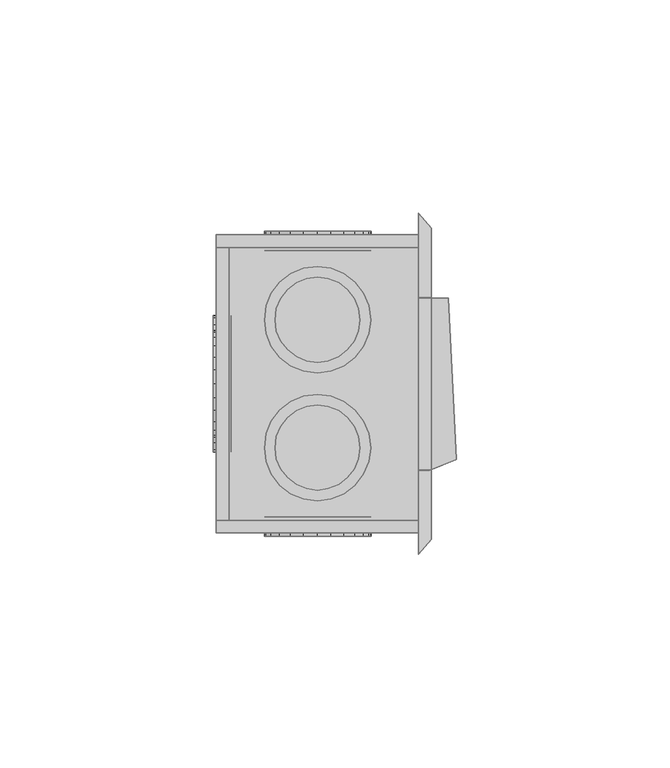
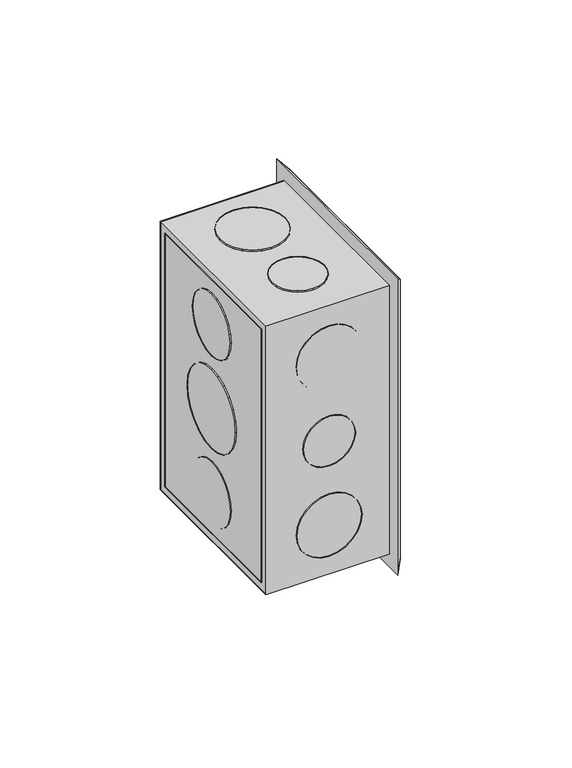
"""IFC4 building model written with IfcOpenShell, lengths in millimetres: proxy geometry,  209430 :  209430."""

from ifc_helpers import new_model, si_unit, origin, place, context, project, spatial, triangles, source, transform, mapped, element, save


def generic_models_590e91da(model_context):
    return source(origin(), model_context, "Body", "Tessellation", [
        triangles([(30653.4010437, 18688.7999542, 1254.3000378), (30653.4010437, 18685.8001373, 1148.7000154), (30653.4010437, 18688.7999542, 1145.6999805), (30653.4010437, 18685.8001373, 1251.2999302), (30653.4010437, 18618.7995758, 1254.3000378), (30653.4010437, 18621.8005554, 1251.2999302), (30653.4010437, 18618.7995758, 1145.6999805), (30653.4010437, 18621.8005554, 1148.7000154), (30605.899292, 18685.8001373, 1251.2999302), (30605.899292, 18685.8001373, 1148.7000154), (30605.899292, 18618.7995758, 1254.3000378), (30605.899292, 18618.7995758, 1145.6999805), (30605.899292, 18621.8005554, 1251.2999302), (30605.899292, 18688.7999542, 1145.6999805), (30605.899292, 18621.8005554, 1148.7000154), (30605.899292, 18688.7999542, 1254.3000378), (30608.8991089, 18685.8001373, 1251.2999302), (30608.8991089, 18621.8005554, 1148.7000154), (30608.8991089, 18685.8001373, 1148.7000154), (30608.8991089, 18621.8005554, 1251.2999302), (30609.3990784, 18667.7000793, 1191.9999887), (30609.3990784, 18661.8004395, 1186.0999855), (30609.3990784, 18665.100238, 1188.6999722), (30609.3990784, 18669.2999817, 1195.8999687), (30609.3990784, 18657.9995087, 1184.5000105), (30609.3990784, 18669.7999512, 1200.0000092), (30609.3990784, 18653.799765, 1183.9999683), (30609.3990784, 18669.2999817, 1204.0999769), (30609.3990784, 18649.7000153, 1184.5000105), (30609.3990784, 18667.7000793, 1208.0000296), (30609.3990784, 18645.8002533, 1186.0999855), (30609.3990784, 18665.100238, 1211.2999735), (30609.3990784, 18642.5004547, 1188.6999722), (30609.3990784, 18661.8004395, 1213.9000328), (30609.3990784, 18639.9994446, 1191.9999887), (30609.3990784, 18657.9995087, 1215.5000078), (30609.3990784, 18638.3995422, 1195.8999687), (30609.3990784, 18653.799765, 1215.9999773), (30609.3990784, 18637.7995789, 1200.0000092), (30609.3990784, 18649.7000153, 1215.5000078), (30609.3990784, 18638.3995422, 1204.0999769), (30609.3990784, 18645.8002533, 1213.9000328), (30609.3990784, 18639.9994446, 1208.0000296), (30609.3990784, 18642.5004547, 1211.2999735), (30605.1993347, 18649.7000153, 1184.5000105), (30605.1993347, 18653.799765, 1183.9999683), (30605.1993347, 18657.9995087, 1184.5000105), (30605.1993347, 18661.8004395, 1186.0999855), (30605.1993347, 18665.100238, 1188.6999722), (30605.1993347, 18667.7000793, 1191.9999887), (30605.1993347, 18669.2999817, 1195.8999687), (30605.1993347, 18669.7999512, 1200.0000092), (30605.1993347, 18669.2999817, 1204.0999769), (30605.1993347, 18667.7000793, 1208.0000296), (30605.1993347, 18665.100238, 1211.2999735), (30605.1993347, 18661.8004395, 1213.9000328), (30605.1993347, 18657.9995087, 1215.5000078), (30605.1993347, 18653.799765, 1215.9999773), (30605.1993347, 18649.7000153, 1215.5000078), (30605.1993347, 18645.8002533, 1213.9000328), (30605.1993347, 18642.5004547, 1211.2999735), (30605.1993347, 18639.9994446, 1208.0000296), (30605.1993347, 18638.3995422, 1204.0999769), (30605.1993347, 18637.7995789, 1200.0000092), (30605.1993347, 18638.3995422, 1195.8999687), (30605.1993347, 18639.9994446, 1191.9999887), (30605.1993347, 18642.5004547, 1188.6999722), (30605.1993347, 18645.8002533, 1186.0999855), (30609.3990784, 18664.7002625, 1227.8000565), (30609.3990784, 18660.1005432, 1223.2000465), (30609.3990784, 18662.7003845, 1225.2000698), (30609.3990784, 18665.9001892, 1230.8000187), (30609.3990784, 18657.0995636, 1221.8999805), (30609.3990784, 18666.3001648, 1233.9999687), (30609.3990784, 18653.799765, 1221.500005), (30609.3990784, 18665.9001892, 1237.2000641), (30609.3990784, 18650.5999603, 1221.8999805), (30609.3990784, 18664.7002625, 1240.3000202), (30609.3990784, 18647.6001434, 1223.2000465), (30609.3990784, 18662.7003845, 1242.800013), (30609.3990784, 18645.0003021, 1225.2000698), (30609.3990784, 18643.0004242, 1227.8000565), (30609.3990784, 18660.1005432, 1244.8000362), (30609.3990784, 18657.0995636, 1246.0999569), (30609.3990784, 18641.8004974, 1230.8000187), (30609.3990784, 18653.799765, 1246.4999325), (30609.3990784, 18641.300528, 1233.9999687), (30609.3990784, 18650.5999603, 1246.0999569), (30609.3990784, 18641.8004974, 1237.2000641), (30609.3990784, 18643.0004242, 1240.3000202), (30609.3990784, 18647.6001434, 1244.8000362), (30609.3990784, 18645.0003021, 1242.800013), (30605.1993347, 18641.8004974, 1230.8000187), (30605.1993347, 18643.0004242, 1227.8000565), (30605.1993347, 18645.0003021, 1225.2000698), (30605.1993347, 18647.6001434, 1223.2000465), (30605.1993347, 18650.5999603, 1221.8999805), (30605.1993347, 18653.799765, 1221.500005), (30605.1993347, 18657.0995636, 1221.8999805), (30605.1993347, 18660.1005432, 1223.2000465), (30605.1993347, 18662.7003845, 1225.2000698), (30605.1993347, 18664.7002625, 1227.8000565), (30605.1993347, 18665.9001892, 1230.8000187), (30605.1993347, 18666.3001648, 1233.9999687), (30605.1993347, 18665.9001892, 1237.2000641), (30605.1993347, 18664.7002625, 1240.3000202), (30605.1993347, 18662.7003845, 1242.800013), (30605.1993347, 18660.1005432, 1244.8000362), (30605.1993347, 18657.0995636, 1246.0999569), (30605.1993347, 18653.799765, 1246.4999325), (30605.1993347, 18650.5999603, 1246.0999569), (30605.1993347, 18647.6001434, 1244.8000362), (30605.1993347, 18645.0003021, 1242.800013), (30605.1993347, 18643.0004242, 1240.3000202), (30605.1993347, 18641.8004974, 1237.2000641), (30605.1993347, 18641.300528, 1233.9999687), (30605.1993347, 18660.1005432, 1155.1999821), (30605.1993347, 18664.7002625, 1159.6999981), (30605.1993347, 18662.7003845, 1157.2000053), (30605.1993347, 18657.0995636, 1153.8999887), (30605.1993347, 18665.9001892, 1162.8000269), (30605.1993347, 18653.799765, 1153.5000132), (30605.1993347, 18666.3001648, 1165.9999769), (30605.1993347, 18650.5999603, 1153.8999887), (30605.1993347, 18665.9001892, 1169.1999996), (30605.1993347, 18647.6001434, 1155.1999821), (30605.1993347, 18664.7002625, 1172.2000345), (30605.1993347, 18645.0003021, 1157.2000053), (30605.1993347, 18662.7003845, 1174.8000212), (30605.1993347, 18643.0004242, 1159.6999981), (30605.1993347, 18660.1005432, 1176.7999718), (30605.1993347, 18641.8004974, 1162.8000269), (30605.1993347, 18657.0995636, 1178.0999651), (30605.1993347, 18653.799765, 1178.5000134), (30605.1993347, 18641.300528, 1165.9999769), (30605.1993347, 18641.8004974, 1169.1999996), (30605.1993347, 18650.5999603, 1178.0999651), (30605.1993347, 18643.0004242, 1172.2000345), (30605.1993347, 18647.6001434, 1176.7999718), (30605.1993347, 18645.0003021, 1174.8000212), (30609.3990784, 18657.0995636, 1178.0999651), (30609.3990784, 18653.799765, 1178.5000134), (30609.3990784, 18660.1005432, 1176.7999718), (30609.3990784, 18662.7003845, 1174.8000212), (30609.3990784, 18664.7002625, 1172.2000345), (30609.3990784, 18665.9001892, 1169.1999996), (30609.3990784, 18666.3001648, 1165.9999769), (30609.3990784, 18665.9001892, 1162.8000269), (30609.3990784, 18664.7002625, 1159.6999981), (30609.3990784, 18662.7003845, 1157.2000053), (30609.3990784, 18660.1005432, 1155.1999821), (30609.3990784, 18657.0995636, 1153.8999887), (30609.3990784, 18653.799765, 1153.5000132), (30609.3990784, 18650.5999603, 1153.8999887), (30609.3990784, 18647.6001434, 1155.1999821), (30609.3990784, 18645.0003021, 1157.2000053), (30609.3990784, 18643.0004242, 1159.6999981), (30609.3990784, 18641.8004974, 1162.8000269), (30609.3990784, 18641.300528, 1165.9999769), (30609.3990784, 18641.8004974, 1169.1999996), (30609.3990784, 18643.0004242, 1172.2000345), (30609.3990784, 18645.0003021, 1174.8000212), (30609.3990784, 18647.6001434, 1176.7999718), (30609.3990784, 18650.5999603, 1178.0999651), (30624.70047, 18685.0001862, 1191.3000315), (30621.0006958, 18685.0001862, 1195.0000237), (30622.6005981, 18685.0001862, 1192.9000065), (30620.0007568, 18685.0001862, 1197.4000225), (30627.1003235, 18685.0001862, 1190.3000198), (30619.7007751, 18685.0001862, 1200.0000092), (30629.7001648, 18685.0001862, 1189.9999655), (30632.2000122, 18685.0001862, 1190.3000198), (30620.0007568, 18685.0001862, 1202.5999958), (30621.0006958, 18685.0001862, 1204.9999947), (30634.6998596, 18685.0001862, 1191.3000315), (30622.6005981, 18685.0001862, 1207.1000118), (30636.6997375, 18685.0001862, 1192.9000065), (30638.2996399, 18685.0001862, 1195.0000237), (30624.70047, 18685.0001862, 1208.6999868), (30639.2995789, 18685.0001862, 1197.4000225), (30627.1003235, 18685.0001862, 1209.6999985), (30639.6995544, 18685.0001862, 1200.0000092), (30629.7001648, 18685.0001862, 1209.9999802), (30639.2995789, 18685.0001862, 1202.5999958), (30632.2000122, 18685.0001862, 1209.6999985), (30634.6998596, 18685.0001862, 1208.6999868), (30638.2996399, 18685.0001862, 1204.9999947), (30636.6997375, 18685.0001862, 1207.1000118), (30629.7001648, 18689.5999054, 1189.9999655), (30627.1003235, 18689.5999054, 1190.3000198), (30632.2000122, 18689.5999054, 1190.3000198), (30634.6998596, 18689.5999054, 1191.3000315), (30636.6997375, 18689.5999054, 1192.9000065), (30638.2996399, 18689.5999054, 1195.0000237), (30639.2995789, 18689.5999054, 1197.4000225), (30639.6995544, 18689.5999054, 1200.0000092), (30639.2995789, 18689.5999054, 1202.5999958), (30638.2996399, 18689.5999054, 1204.9999947), (30636.6997375, 18689.5999054, 1207.1000118), (30634.6998596, 18689.5999054, 1208.6999868), (30632.2000122, 18689.5999054, 1209.6999985), (30629.7001648, 18689.5999054, 1209.9999802), (30627.1003235, 18689.5999054, 1209.6999985), (30624.70047, 18689.5999054, 1208.6999868), (30622.6005981, 18689.5999054, 1207.1000118), (30621.0006958, 18689.5999054, 1204.9999947), (30620.0007568, 18689.5999054, 1202.5999958), (30619.7007751, 18689.5999054, 1200.0000092), (30620.0007568, 18689.5999054, 1197.4000225), (30621.0006958, 18689.5999054, 1195.0000237), (30622.6005981, 18689.5999054, 1192.9000065), (30624.70047, 18689.5999054, 1191.3000315), (30623.4005493, 18685.0001862, 1223.2000465), (30618.8008301, 18685.0001862, 1227.8000565), (30620.800708, 18685.0001862, 1225.2000698), (30626.4003662, 18685.0001862, 1221.8999805), (30617.6009033, 18685.0001862, 1230.8000187), (30617.2009277, 18685.0001862, 1233.9999687), (30629.7001648, 18685.0001862, 1221.500005), (30632.8999695, 18685.0001862, 1221.8999805), (30617.6009033, 18685.0001862, 1237.2000641), (30618.8008301, 18685.0001862, 1240.3000202), (30635.8997864, 18685.0001862, 1223.2000465), (30638.4996277, 18685.0001862, 1225.2000698), (30620.800708, 18685.0001862, 1242.800013), (30640.4995056, 18685.0001862, 1227.8000565), (30623.4005493, 18685.0001862, 1244.8000362), (30641.6994324, 18685.0001862, 1230.8000187), (30626.4003662, 18685.0001862, 1246.0999569), (30642.1994019, 18685.0001862, 1233.9999687), (30629.7001648, 18685.0001862, 1246.4999325), (30641.6994324, 18685.0001862, 1237.2000641), (30632.8999695, 18685.0001862, 1246.0999569), (30640.4995056, 18685.0001862, 1240.3000202), (30635.8997864, 18685.0001862, 1244.8000362), (30638.4996277, 18685.0001862, 1242.800013), (30629.7001648, 18689.5999054, 1221.500005), (30626.4003662, 18689.5999054, 1221.8999805), (30632.8999695, 18689.5999054, 1221.8999805), (30635.8997864, 18689.5999054, 1223.2000465), (30638.4996277, 18689.5999054, 1225.2000698), (30640.4995056, 18689.5999054, 1227.8000565), (30641.6994324, 18689.5999054, 1230.8000187), (30642.1994019, 18689.5999054, 1233.9999687), (30641.6994324, 18689.5999054, 1237.2000641), (30640.4995056, 18689.5999054, 1240.3000202), (30638.4996277, 18689.5999054, 1242.800013), (30635.8997864, 18689.5999054, 1244.8000362), (30632.8999695, 18689.5999054, 1246.0999569), (30629.7001648, 18689.5999054, 1246.4999325), (30626.4003662, 18689.5999054, 1246.0999569), (30623.4005493, 18689.5999054, 1244.8000362), (30620.800708, 18689.5999054, 1242.800013), (30618.8008301, 18689.5999054, 1240.3000202), (30617.6009033, 18689.5999054, 1237.2000641), (30617.2009277, 18689.5999054, 1233.9999687), (30617.6009033, 18689.5999054, 1230.8000187), (30618.8008301, 18689.5999054, 1227.8000565), (30620.800708, 18689.5999054, 1225.2000698), (30623.4005493, 18689.5999054, 1223.2000465), (30618.8008301, 18689.5999054, 1159.6999981), (30623.4005493, 18689.5999054, 1155.1999821), (30620.800708, 18689.5999054, 1157.2000053), (30617.6009033, 18689.5999054, 1162.8000269), (30626.4003662, 18689.5999054, 1153.8999887), (30617.2009277, 18689.5999054, 1165.9999769), (30629.7001648, 18689.5999054, 1153.5000132), (30617.6009033, 18689.5999054, 1169.1999996), (30632.8999695, 18689.5999054, 1153.8999887), (30618.8008301, 18689.5999054, 1172.2000345), (30635.8997864, 18689.5999054, 1155.1999821), (30620.800708, 18689.5999054, 1174.8000212), (30638.4996277, 18689.5999054, 1157.2000053), (30623.4005493, 18689.5999054, 1176.7999718), (30640.4995056, 18689.5999054, 1159.6999981), (30626.4003662, 18689.5999054, 1178.0999651), (30641.6994324, 18689.5999054, 1162.8000269), (30629.7001648, 18689.5999054, 1178.5000134), (30642.1994019, 18689.5999054, 1165.9999769), (30632.8999695, 18689.5999054, 1178.0999651), (30641.6994324, 18689.5999054, 1169.1999996), (30635.8997864, 18689.5999054, 1176.7999718), (30640.4995056, 18689.5999054, 1172.2000345), (30638.4996277, 18689.5999054, 1174.8000212), (30626.4003662, 18685.0001862, 1178.0999651), (30629.7001648, 18685.0001862, 1178.5000134), (30632.8999695, 18685.0001862, 1178.0999651), (30635.8997864, 18685.0001862, 1176.7999718), (30638.4996277, 18685.0001862, 1174.8000212), (30640.4995056, 18685.0001862, 1172.2000345), (30641.6994324, 18685.0001862, 1169.1999996), (30642.1994019, 18685.0001862, 1165.9999769), (30641.6994324, 18685.0001862, 1162.8000269), (30640.4995056, 18685.0001862, 1159.6999981), (30638.4996277, 18685.0001862, 1157.2000053), (30635.8997864, 18685.0001862, 1155.1999821), (30632.8999695, 18685.0001862, 1153.8999887), (30629.7001648, 18685.0001862, 1153.5000132), (30626.4003662, 18685.0001862, 1153.8999887), (30623.4005493, 18685.0001862, 1155.1999821), (30620.800708, 18685.0001862, 1157.2000053), (30618.8008301, 18685.0001862, 1159.6999981), (30617.6009033, 18685.0001862, 1162.8000269), (30617.2009277, 18685.0001862, 1165.9999769), (30617.6009033, 18685.0001862, 1169.1999996), (30618.8008301, 18685.0001862, 1172.2000345), (30620.800708, 18685.0001862, 1174.8000212), (30623.4005493, 18685.0001862, 1176.7999718), (30621.0006958, 18622.6005066, 1195.0000237), (30624.70047, 18622.6005066, 1191.3000315), (30622.6005981, 18622.6005066, 1192.9000065), (30620.0007568, 18622.6005066, 1197.4000225), (30627.1003235, 18622.6005066, 1190.3000198), (30619.7007751, 18622.6005066, 1200.0000092), (30629.7001648, 18622.6005066, 1189.9999655), (30620.0007568, 18622.6005066, 1202.5999958), (30632.2000122, 18622.6005066, 1190.3000198), (30621.0006958, 18622.6005066, 1204.9999947), (30634.6998596, 18622.6005066, 1191.3000315), (30622.6005981, 18622.6005066, 1207.1000118), (30636.6997375, 18622.6005066, 1192.9000065), (30624.70047, 18622.6005066, 1208.6999868), (30638.2996399, 18622.6005066, 1195.0000237), (30627.1003235, 18622.6005066, 1209.6999985), (30639.2995789, 18622.6005066, 1197.4000225), (30639.6995544, 18622.6005066, 1200.0000092), (30629.7001648, 18622.6005066, 1209.9999802), (30632.2000122, 18622.6005066, 1209.6999985), (30639.2995789, 18622.6005066, 1202.5999958), (30634.6998596, 18622.6005066, 1208.6999868), (30638.2996399, 18622.6005066, 1204.9999947), (30636.6997375, 18622.6005066, 1207.1000118), (30627.1003235, 18617.9996246, 1209.6999985), (30629.7001648, 18617.9996246, 1209.9999802), (30632.2000122, 18617.9996246, 1209.6999985), (30634.6998596, 18617.9996246, 1208.6999868), (30636.6997375, 18617.9996246, 1207.1000118), (30638.2996399, 18617.9996246, 1204.9999947), (30639.2995789, 18617.9996246, 1202.5999958), (30639.6995544, 18617.9996246, 1200.0000092), (30639.2995789, 18617.9996246, 1197.4000225), (30638.2996399, 18617.9996246, 1195.0000237), (30636.6997375, 18617.9996246, 1192.9000065), (30634.6998596, 18617.9996246, 1191.3000315), (30632.2000122, 18617.9996246, 1190.3000198), (30629.7001648, 18617.9996246, 1189.9999655), (30627.1003235, 18617.9996246, 1190.3000198), (30624.70047, 18617.9996246, 1191.3000315), (30622.6005981, 18617.9996246, 1192.9000065), (30621.0006958, 18617.9996246, 1195.0000237), (30620.0007568, 18617.9996246, 1197.4000225), (30619.7007751, 18617.9996246, 1200.0000092), (30620.0007568, 18617.9996246, 1202.5999958), (30621.0006958, 18617.9996246, 1204.9999947), (30622.6005981, 18617.9996246, 1207.1000118), (30624.70047, 18617.9996246, 1208.6999868), (30618.8008301, 18622.6005066, 1159.6999981), (30623.4005493, 18622.6005066, 1155.1999821), (30620.800708, 18622.6005066, 1157.2000053), (30617.6009033, 18622.6005066, 1162.8000269), (30626.4003662, 18622.6005066, 1153.8999887), (30617.2009277, 18622.6005066, 1165.9999769), (30629.7001648, 18622.6005066, 1153.5000132), (30617.6009033, 18622.6005066, 1169.1999996), (30632.8999695, 18622.6005066, 1153.8999887), (30618.8008301, 18622.6005066, 1172.2000345), (30635.8997864, 18622.6005066, 1155.1999821), (30620.800708, 18622.6005066, 1174.8000212), (30638.4996277, 18622.6005066, 1157.2000053), (30623.4005493, 18622.6005066, 1176.7999718), (30640.4995056, 18622.6005066, 1159.6999981), (30626.4003662, 18622.6005066, 1178.0999651), (30641.6994324, 18622.6005066, 1162.8000269), (30629.7001648, 18622.6005066, 1178.5000134), (30642.1994019, 18622.6005066, 1165.9999769), (30632.8999695, 18622.6005066, 1178.0999651), (30641.6994324, 18622.6005066, 1169.1999996), (30635.8997864, 18622.6005066, 1176.7999718), (30640.4995056, 18622.6005066, 1172.2000345), (30638.4996277, 18622.6005066, 1174.8000212), (30626.4003662, 18617.9996246, 1178.0999651), (30629.7001648, 18617.9996246, 1178.5000134), (30632.8999695, 18617.9996246, 1178.0999651), (30635.8997864, 18617.9996246, 1176.7999718), (30638.4996277, 18617.9996246, 1174.8000212), (30640.4995056, 18617.9996246, 1172.2000345), (30641.6994324, 18617.9996246, 1169.1999996), (30642.1994019, 18617.9996246, 1165.9999769), (30641.6994324, 18617.9996246, 1162.8000269), (30640.4995056, 18617.9996246, 1159.6999981), (30638.4996277, 18617.9996246, 1157.2000053), (30635.8997864, 18617.9996246, 1155.1999821), (30632.8999695, 18617.9996246, 1153.8999887), (30629.7001648, 18617.9996246, 1153.5000132), (30626.4003662, 18617.9996246, 1153.8999887), (30623.4005493, 18617.9996246, 1155.1999821), (30620.800708, 18617.9996246, 1157.2000053), (30618.8008301, 18617.9996246, 1159.6999981), (30617.6009033, 18617.9996246, 1162.8000269), (30617.2009277, 18617.9996246, 1165.9999769), (30617.6009033, 18617.9996246, 1169.1999996), (30618.8008301, 18617.9996246, 1172.2000345), (30620.800708, 18617.9996246, 1174.8000212), (30623.4005493, 18617.9996246, 1176.7999718), (30623.4005493, 18617.9996246, 1223.2000465), (30618.8008301, 18617.9996246, 1227.8000565), (30620.800708, 18617.9996246, 1225.2000698), (30626.4003662, 18617.9996246, 1221.8999805), (30617.6009033, 18617.9996246, 1230.8000187), (30617.2009277, 18617.9996246, 1233.9999687), (30629.7001648, 18617.9996246, 1221.500005), (30632.8999695, 18617.9996246, 1221.8999805), (30617.6009033, 18617.9996246, 1237.2000641), (30618.8008301, 18617.9996246, 1240.3000202), (30635.8997864, 18617.9996246, 1223.2000465), (30638.4996277, 18617.9996246, 1225.2000698), (30620.800708, 18617.9996246, 1242.800013), (30640.4995056, 18617.9996246, 1227.8000565), (30623.4005493, 18617.9996246, 1244.8000362), (30641.6994324, 18617.9996246, 1230.8000187), (30626.4003662, 18617.9996246, 1246.0999569), (30642.1994019, 18617.9996246, 1233.9999687), (30629.7001648, 18617.9996246, 1246.4999325), (30641.6994324, 18617.9996246, 1237.2000641), (30632.8999695, 18617.9996246, 1246.0999569), (30640.4995056, 18617.9996246, 1240.3000202), (30635.8997864, 18617.9996246, 1244.8000362), (30638.4996277, 18617.9996246, 1242.800013), (30629.7001648, 18622.6005066, 1221.500005), (30626.4003662, 18622.6005066, 1221.8999805), (30632.8999695, 18622.6005066, 1221.8999805), (30635.8997864, 18622.6005066, 1223.2000465), (30638.4996277, 18622.6005066, 1225.2000698), (30640.4995056, 18622.6005066, 1227.8000565), (30641.6994324, 18622.6005066, 1230.8000187), (30642.1994019, 18622.6005066, 1233.9999687), (30641.6994324, 18622.6005066, 1237.2000641), (30640.4995056, 18622.6005066, 1240.3000202), (30638.4996277, 18622.6005066, 1242.800013), (30635.8997864, 18622.6005066, 1244.8000362), (30632.8999695, 18622.6005066, 1246.0999569), (30629.7001648, 18622.6005066, 1246.4999325), (30626.4003662, 18622.6005066, 1246.0999569), (30623.4005493, 18622.6005066, 1244.8000362), (30620.800708, 18622.6005066, 1242.800013), (30618.8008301, 18622.6005066, 1240.3000202), (30617.6009033, 18622.6005066, 1237.2000641), (30617.2009277, 18622.6005066, 1233.9999687), (30617.6009033, 18622.6005066, 1230.8000187), (30618.8008301, 18622.6005066, 1227.8000565), (30620.800708, 18622.6005066, 1225.2000698), (30623.4005493, 18622.6005066, 1223.2000465), (30623.4005493, 18679.7005096, 1250.9999485), (30618.8008301, 18675.0996277, 1250.9999485), (30620.800708, 18677.699469, 1250.9999485), (30626.4003662, 18680.9004364, 1250.9999485), (30617.6009033, 18672.0998108, 1250.9999485), (30617.2009277, 18668.8000122, 1250.9999485), (30629.7001648, 18681.300412, 1250.9999485), (30632.8999695, 18680.9004364, 1250.9999485), (30617.6009033, 18665.6002075, 1250.9999485), (30618.8008301, 18662.6003906, 1250.9999485), (30635.8997864, 18679.7005096, 1250.9999485), (30638.4996277, 18677.699469, 1250.9999485), (30620.800708, 18660.0005493, 1250.9999485), (30623.4005493, 18657.9995087, 1250.9999485), (30640.4995056, 18675.0996277, 1250.9999485), (30641.6994324, 18672.0998108, 1250.9999485), (30626.4003662, 18656.7995819, 1250.9999485), (30642.1994019, 18668.8000122, 1250.9999485), (30629.7001648, 18656.2996124, 1250.9999485), (30641.6994324, 18665.6002075, 1250.9999485), (30632.8999695, 18656.7995819, 1250.9999485), (30635.8997864, 18657.9995087, 1250.9999485), (30640.4995056, 18662.6003906, 1250.9999485), (30638.4996277, 18660.0005493, 1250.9999485), (30617.2009277, 18668.8000122, 1255.1999828), (30617.6009033, 18665.6002075, 1255.1999828), (30617.6009033, 18672.0998108, 1255.1999828), (30618.8008301, 18675.0996277, 1255.1999828), (30620.800708, 18677.699469, 1255.1999828), (30623.4005493, 18679.7005096, 1255.1999828), (30626.4003662, 18680.9004364, 1255.1999828), (30629.7001648, 18681.300412, 1255.1999828), (30632.8999695, 18680.9004364, 1255.1999828), (30635.8997864, 18679.7005096, 1255.1999828), (30638.4996277, 18677.699469, 1255.1999828), (30640.4995056, 18675.0996277, 1255.1999828), (30641.6994324, 18672.0998108, 1255.1999828), (30642.1994019, 18668.8000122, 1255.1999828), (30641.6994324, 18665.6002075, 1255.1999828), (30640.4995056, 18662.6003906, 1255.1999828), (30638.4996277, 18660.0005493, 1255.1999828), (30635.8997864, 18657.9995087, 1255.1999828), (30632.8999695, 18656.7995819, 1255.1999828), (30629.7001648, 18656.2996124, 1255.1999828), (30626.4003662, 18656.7995819, 1255.1999828), (30623.4005493, 18657.9995087, 1255.1999828), (30620.800708, 18660.0005493, 1255.1999828), (30618.8008301, 18662.6003906, 1255.1999828), (30624.70047, 18647.5001495, 1250.9999485), (30621.0006958, 18643.8003754, 1250.9999485), (30622.6005981, 18645.9002472, 1250.9999485), (30620.0007568, 18641.4005219, 1250.9999485), (30627.1003235, 18648.5000885, 1250.9999485), (30619.7007751, 18638.7995178, 1250.9999485), (30629.7001648, 18648.8000702, 1250.9999485), (30632.2000122, 18648.5000885, 1250.9999485), (30620.0007568, 18636.1996765, 1250.9999485), (30621.0006958, 18633.799823, 1250.9999485), (30634.6998596, 18647.5001495, 1250.9999485), (30622.6005981, 18631.7999451, 1250.9999485), (30636.6997375, 18645.9002472, 1250.9999485), (30638.2996399, 18643.8003754, 1250.9999485), (30624.70047, 18630.2000427, 1250.9999485), (30627.1003235, 18629.2001038, 1250.9999485), (30639.2995789, 18641.4005219, 1250.9999485), (30639.6995544, 18638.7995178, 1250.9999485), (30629.7001648, 18628.8001282, 1250.9999485), (30639.2995789, 18636.1996765, 1250.9999485), (30632.2000122, 18629.2001038, 1250.9999485), (30638.2996399, 18633.799823, 1250.9999485), (30634.6998596, 18630.2000427, 1250.9999485), (30636.6997375, 18631.7999451, 1250.9999485), (30620.0007568, 18636.1996765, 1255.1999828), (30621.0006958, 18633.799823, 1255.1999828), (30619.7007751, 18638.7995178, 1255.1999828), (30620.0007568, 18641.4005219, 1255.1999828), (30621.0006958, 18643.8003754, 1255.1999828), (30622.6005981, 18645.9002472, 1255.1999828), (30624.70047, 18647.5001495, 1255.1999828), (30627.1003235, 18648.5000885, 1255.1999828), (30629.7001648, 18648.8000702, 1255.1999828), (30632.2000122, 18648.5000885, 1255.1999828), (30634.6998596, 18647.5001495, 1255.1999828), (30636.6997375, 18645.9002472, 1255.1999828), (30638.2996399, 18643.8003754, 1255.1999828), (30639.2995789, 18641.4005219, 1255.1999828), (30639.6995544, 18638.7995178, 1255.1999828), (30639.2995789, 18636.1996765, 1255.1999828), (30638.2996399, 18633.799823, 1255.1999828), (30636.6997375, 18631.7999451, 1255.1999828), (30634.6998596, 18630.2000427, 1255.1999828), (30632.2000122, 18629.2001038, 1255.1999828), (30629.7001648, 18628.8001282, 1255.1999828), (30627.1003235, 18629.2001038, 1255.1999828), (30624.70047, 18630.2000427, 1255.1999828), (30622.6005981, 18631.7999451, 1255.1999828), (30624.70047, 18677.4994812, 1144.8000355), (30621.0006958, 18673.799707, 1144.8000355), (30622.6005981, 18675.8995789, 1144.8000355), (30620.0007568, 18671.3998535, 1144.8000355), (30627.1003235, 18678.4994202, 1144.8000355), (30619.7007751, 18668.8000122, 1144.8000355), (30629.7001648, 18678.8005646, 1144.8000355), (30632.2000122, 18678.4994202, 1144.8000355), (30620.0007568, 18666.2001709, 1144.8000355), (30621.0006958, 18663.8003174, 1144.8000355), (30634.6998596, 18677.4994812, 1144.8000355), (30622.6005981, 18661.8004395, 1144.8000355), (30636.6997375, 18675.8995789, 1144.8000355), (30638.2996399, 18673.799707, 1144.8000355), (30624.70047, 18660.2005371, 1144.8000355), (30627.1003235, 18659.1994354, 1144.8000355), (30639.2995789, 18671.3998535, 1144.8000355), (30639.6995544, 18668.8000122, 1144.8000355), (30629.7001648, 18658.7994598, 1144.8000355), (30639.2995789, 18666.2001709, 1144.8000355), (30632.2000122, 18659.1994354, 1144.8000355), (30638.2996399, 18663.8003174, 1144.8000355), (30634.6998596, 18660.2005371, 1144.8000355), (30636.6997375, 18661.8004395, 1144.8000355), (30620.0007568, 18671.3998535, 1149.099991), (30619.7007751, 18668.8000122, 1149.099991), (30621.0006958, 18673.799707, 1149.099991), (30622.6005981, 18675.8995789, 1149.099991), (30624.70047, 18677.4994812, 1149.099991), (30627.1003235, 18678.4994202, 1149.099991), (30629.7001648, 18678.8005646, 1149.099991), (30632.2000122, 18678.4994202, 1149.099991), (30634.6998596, 18677.4994812, 1149.099991), (30636.6997375, 18675.8995789, 1149.099991), (30638.2996399, 18673.799707, 1149.099991), (30639.2995789, 18671.3998535, 1149.099991), (30639.6995544, 18668.8000122, 1149.099991), (30639.2995789, 18666.2001709, 1149.099991), (30638.2996399, 18663.8003174, 1149.099991), (30636.6997375, 18661.8004395, 1149.099991), (30634.6998596, 18660.2005371, 1149.099991), (30632.2000122, 18659.1994354, 1149.099991), (30629.7001648, 18658.7994598, 1149.099991), (30627.1003235, 18659.1994354, 1149.099991), (30624.70047, 18660.2005371, 1149.099991), (30622.6005981, 18661.8004395, 1149.099991), (30621.0006958, 18663.8003174, 1149.099991), (30620.0007568, 18666.2001709, 1149.099991), (30623.4005493, 18649.7000153, 1144.8000355), (30618.8008301, 18645.100296, 1144.8000355), (30620.800708, 18647.7001373, 1144.8000355), (30626.4003662, 18650.899942, 1144.8000355), (30617.6009033, 18642.1004791, 1144.8000355), (30617.2009277, 18638.7995178, 1144.8000355), (30629.7001648, 18651.2999176, 1144.8000355), (30632.8999695, 18650.899942, 1144.8000355), (30617.6009033, 18635.5997131, 1144.8000355), (30618.8008301, 18632.5998962, 1144.8000355), (30635.8997864, 18649.7000153, 1144.8000355), (30638.4996277, 18647.7001373, 1144.8000355), (30620.800708, 18630.0000549, 1144.8000355), (30623.4005493, 18628.000177, 1144.8000355), (30640.4995056, 18645.100296, 1144.8000355), (30641.6994324, 18642.1004791, 1144.8000355), (30626.4003662, 18626.8002502, 1144.8000355), (30642.1994019, 18638.7995178, 1144.8000355), (30629.7001648, 18626.3002808, 1144.8000355), (30641.6994324, 18635.5997131, 1144.8000355), (30632.8999695, 18626.8002502, 1144.8000355), (30635.8997864, 18628.000177, 1144.8000355), (30640.4995056, 18632.5998962, 1144.8000355), (30638.4996277, 18630.0000549, 1144.8000355), (30617.6009033, 18635.5997131, 1149.099991), (30618.8008301, 18632.5998962, 1149.099991), (30617.2009277, 18638.7995178, 1149.099991), (30617.6009033, 18642.1004791, 1149.099991), (30618.8008301, 18645.100296, 1149.099991), (30620.800708, 18647.7001373, 1149.099991), (30623.4005493, 18649.7000153, 1149.099991), (30626.4003662, 18650.899942, 1149.099991), (30629.7001648, 18651.2999176, 1149.099991), (30632.8999695, 18650.899942, 1149.099991), (30635.8997864, 18649.7000153, 1149.099991), (30638.4996277, 18647.7001373, 1149.099991), (30640.4995056, 18645.100296, 1149.099991), (30641.6994324, 18642.1004791, 1149.099991), (30642.1994019, 18638.7995178, 1149.099991), (30641.6994324, 18635.5997131, 1149.099991), (30640.4995056, 18632.5998962, 1149.099991), (30638.4996277, 18630.0000549, 1149.099991), (30635.8997864, 18628.000177, 1149.099991), (30632.8999695, 18626.8002502, 1149.099991), (30629.7001648, 18626.3002808, 1149.099991), (30626.4003662, 18626.8002502, 1149.099991), (30623.4005493, 18628.000177, 1149.099991), (30620.800708, 18630.0000549, 1149.099991), (30653.4010437, 18613.799881, 1139.9999651), (30653.4010437, 18673.9996948, 1188.2999966), (30653.4010437, 18693.799649, 1139.9999651), (30653.4010437, 18633.5998352, 1188.2999966), (30653.4010437, 18613.799881, 1259.9999805), (30653.4010437, 18633.5998352, 1211.7000217), (30653.4010437, 18693.799649, 1259.9999805), (30653.4010437, 18673.9996948, 1211.7000217), (30656.4008606, 18633.5998352, 1188.2999966), (30656.4008606, 18633.5998352, 1211.7000217), (30656.4008606, 18673.9996948, 1188.2999966), (30656.4008606, 18673.9996948, 1211.7000217), (30656.4008606, 18690.2998627, 1143.4999695), (30656.4008606, 18690.2998627, 1256.5000488), (30656.4008606, 18617.2996674, 1143.4999695), (30656.4008606, 18617.2996674, 1256.5000488), (30660.4006165, 18673.8997009, 1188.1000088), (30653.4010437, 18633.4998413, 1188.1000088), (30653.4010437, 18673.8997009, 1188.1000088), (30662.3005005, 18636.0996826, 1188.1000088), (30655.9008911, 18633.4998413, 1188.1000088), (30653.4010437, 18673.8997009, 1211.500034), (30653.4010437, 18633.4998413, 1211.500034), (30660.4006165, 18673.8997009, 1211.500034), (30662.3005005, 18636.0996826, 1211.500034), (30655.9008911, 18633.4998413, 1211.500034)], [[1, 2, 3], [2, 1, 4], [5, 4, 1], [4, 5, 6], [3, 2, 7], [7, 2, 8], [7, 8, 6], [7, 6, 5], [2, 9, 10], [9, 2, 4], [7, 11, 12], [11, 7, 5], [4, 13, 9], [13, 4, 6], [3, 12, 14], [12, 3, 7], [13, 8, 15], [8, 13, 6], [16, 3, 14], [3, 16, 1], [15, 2, 10], [2, 15, 8], [11, 1, 16], [1, 11, 5], [12, 10, 14], [10, 12, 15], [11, 15, 12], [15, 11, 13], [14, 10, 16], [16, 10, 9], [16, 9, 13], [16, 13, 11], [17, 18, 19], [18, 17, 20], [18, 13, 15], [13, 18, 20], [19, 15, 10], [15, 19, 18], [9, 19, 10], [19, 9, 17], [13, 17, 9], [17, 13, 20], [15, 9, 10], [9, 15, 13], [21, 22, 23], [22, 21, 24], [25, 22, 24], [25, 24, 26], [27, 25, 26], [27, 26, 28], [29, 27, 28], [29, 28, 30], [31, 29, 30], [31, 30, 32], [31, 32, 33], [33, 32, 34], [33, 34, 35], [35, 34, 36], [35, 36, 37], [37, 36, 38], [37, 38, 39], [39, 38, 40], [39, 40, 41], [41, 40, 42], [41, 42, 43], [43, 42, 44], [27, 45, 46], [45, 27, 29], [25, 46, 47], [46, 25, 27], [22, 47, 48], [47, 22, 25], [23, 48, 49], [48, 23, 22], [50, 23, 49], [23, 50, 21], [51, 21, 50], [21, 51, 24], [52, 24, 51], [24, 52, 26], [53, 26, 52], [26, 53, 28], [54, 28, 53], [28, 54, 30], [55, 30, 54], [30, 55, 32], [56, 32, 55], [32, 56, 34], [57, 34, 56], [34, 57, 36], [58, 36, 57], [36, 58, 38], [59, 38, 58], [38, 59, 40], [60, 40, 59], [40, 60, 42], [61, 42, 60], [42, 61, 44], [43, 61, 62], [61, 43, 44], [41, 62, 63], [62, 41, 43], [39, 63, 64], [63, 39, 41], [37, 64, 65], [64, 37, 39], [35, 65, 66], [65, 35, 37], [33, 66, 67], [66, 33, 35], [31, 67, 68], [67, 31, 33], [29, 68, 45], [68, 29, 31], [48, 50, 49], [50, 48, 47], [51, 50, 47], [51, 47, 46], [52, 51, 46], [52, 46, 45], [53, 52, 45], [53, 45, 68], [54, 53, 68], [54, 68, 67], [54, 67, 55], [55, 67, 66], [55, 66, 56], [56, 66, 65], [56, 65, 57], [57, 65, 64], [57, 64, 58], [58, 64, 63], [58, 63, 59], [59, 63, 62], [59, 62, 60], [60, 62, 61], [69, 70, 71], [70, 69, 72], [73, 70, 72], [73, 72, 74], [75, 73, 74], [75, 74, 76], [77, 75, 76], [77, 76, 78], [79, 77, 78], [79, 78, 80], [81, 79, 80], [81, 80, 82], [82, 80, 83], [82, 83, 84], [82, 84, 85], [85, 84, 86], [85, 86, 87], [87, 86, 88], [87, 88, 89], [89, 88, 90], [90, 88, 91], [90, 91, 92], [82, 93, 94], [93, 82, 85], [81, 94, 95], [94, 81, 82], [79, 95, 96], [95, 79, 81], [77, 96, 97], [96, 77, 79], [75, 97, 98], [97, 75, 77], [73, 98, 99], [98, 73, 75], [70, 99, 100], [99, 70, 73], [71, 100, 101], [100, 71, 70], [102, 71, 101], [71, 102, 69], [103, 69, 102], [69, 103, 72], [104, 72, 103], [72, 104, 74], [105, 74, 104], [74, 105, 76], [106, 76, 105], [76, 106, 78], [107, 78, 106], [78, 107, 80], [108, 80, 107], [80, 108, 83], [109, 83, 108], [83, 109, 84], [110, 84, 109], [84, 110, 86], [111, 86, 110], [86, 111, 88], [112, 88, 111], [88, 112, 91], [113, 91, 112], [91, 113, 92], [90, 113, 114], [113, 90, 92], [89, 114, 115], [114, 89, 90], [87, 115, 116], [115, 87, 89], [85, 116, 93], [116, 85, 87], [100, 102, 101], [102, 100, 99], [103, 102, 99], [103, 99, 98], [104, 103, 98], [104, 98, 97], [105, 104, 97], [106, 105, 97], [106, 97, 96], [106, 96, 95], [106, 95, 107], [107, 95, 94], [107, 94, 108], [108, 94, 93], [108, 93, 109], [109, 93, 116], [109, 116, 110], [110, 116, 115], [110, 115, 111], [111, 115, 114], [111, 114, 112], [112, 114, 113], [117, 118, 119], [118, 117, 120], [121, 118, 120], [121, 120, 122], [123, 121, 122], [123, 122, 124], [125, 123, 124], [125, 124, 126], [127, 125, 126], [127, 126, 128], [127, 128, 129], [129, 128, 130], [129, 130, 131], [131, 130, 132], [131, 132, 133], [133, 132, 134], [134, 132, 135], [134, 135, 136], [134, 136, 137], [137, 136, 138], [137, 138, 139], [139, 138, 140], [134, 141, 133], [141, 134, 142], [133, 143, 131], [143, 133, 141], [131, 144, 129], [144, 131, 143], [129, 145, 127], [145, 129, 144], [127, 146, 125], [146, 127, 145], [125, 147, 123], [147, 125, 146], [123, 148, 121], [148, 123, 147], [121, 149, 118], [149, 121, 148], [118, 150, 119], [150, 118, 149], [150, 117, 119], [117, 150, 151], [151, 120, 117], [120, 151, 152], [152, 122, 120], [122, 152, 153], [153, 124, 122], [124, 153, 154], [154, 126, 124], [126, 154, 155], [155, 128, 126], [128, 155, 156], [156, 130, 128], [130, 156, 157], [157, 132, 130], [132, 157, 158], [158, 135, 132], [135, 158, 159], [159, 136, 135], [136, 159, 160], [160, 138, 136], [138, 160, 161], [161, 140, 138], [140, 161, 162], [140, 163, 139], [163, 140, 162], [139, 164, 137], [164, 139, 163], [137, 142, 134], [142, 137, 164], [149, 151, 150], [151, 149, 148], [152, 151, 148], [153, 152, 148], [153, 148, 147], [153, 147, 146], [154, 153, 146], [154, 146, 145], [155, 154, 145], [155, 145, 144], [156, 155, 144], [156, 144, 157], [157, 144, 143], [157, 143, 141], [157, 141, 158], [158, 141, 142], [158, 142, 159], [159, 142, 164], [159, 164, 160], [160, 164, 163], [160, 163, 161], [161, 163, 162], [165, 166, 167], [168, 166, 165], [168, 165, 169], [170, 168, 169], [170, 169, 171], [170, 171, 172], [173, 170, 172], [174, 173, 172], [174, 172, 175], [176, 174, 175], [176, 175, 177], [176, 177, 178], [176, 178, 179], [179, 178, 180], [179, 180, 181], [181, 180, 182], [181, 182, 183], [183, 182, 184], [183, 184, 185], [185, 184, 186], [186, 184, 187], [186, 187, 188], [189, 169, 190], [169, 189, 171], [191, 171, 189], [171, 191, 172], [192, 172, 191], [172, 192, 175], [193, 175, 192], [175, 193, 177], [194, 177, 193], [177, 194, 178], [195, 178, 194], [178, 195, 180], [196, 180, 195], [180, 196, 182], [197, 182, 196], [182, 197, 184], [198, 184, 197], [184, 198, 187], [199, 187, 198], [187, 199, 188], [186, 199, 200], [199, 186, 188], [185, 200, 201], [200, 185, 186], [183, 201, 202], [201, 183, 185], [181, 202, 203], [202, 181, 183], [179, 203, 204], [203, 179, 181], [176, 204, 205], [204, 176, 179], [174, 205, 206], [205, 174, 176], [173, 206, 207], [206, 173, 174], [170, 207, 208], [207, 170, 173], [168, 208, 209], [208, 168, 170], [166, 209, 210], [209, 166, 168], [167, 210, 211], [210, 167, 166], [212, 167, 211], [167, 212, 165], [190, 165, 212], [165, 190, 169], [210, 212, 211], [212, 210, 209], [190, 212, 209], [190, 209, 208], [189, 190, 208], [189, 208, 207], [191, 189, 207], [191, 207, 206], [192, 191, 206], [192, 206, 205], [192, 205, 193], [193, 205, 204], [193, 204, 194], [194, 204, 203], [194, 203, 195], [195, 203, 196], [196, 203, 202], [196, 202, 201], [196, 201, 197], [197, 201, 200], [197, 200, 198], [198, 200, 199], [213, 214, 215], [214, 213, 216], [217, 214, 216], [218, 217, 216], [218, 216, 219], [218, 219, 220], [221, 218, 220], [222, 221, 220], [222, 220, 223], [222, 223, 224], [222, 224, 225], [225, 224, 226], [225, 226, 227], [227, 226, 228], [227, 228, 229], [229, 228, 230], [229, 230, 231], [231, 230, 232], [231, 232, 233], [233, 232, 234], [233, 234, 235], [235, 234, 236], [237, 216, 238], [216, 237, 219], [239, 219, 237], [219, 239, 220], [240, 220, 239], [220, 240, 223], [241, 223, 240], [223, 241, 224], [242, 224, 241], [224, 242, 226], [243, 226, 242], [226, 243, 228], [244, 228, 243], [228, 244, 230], [245, 230, 244], [230, 245, 232], [246, 232, 245], [232, 246, 234], [247, 234, 246], [234, 247, 236], [235, 247, 248], [247, 235, 236], [233, 248, 249], [248, 233, 235], [231, 249, 250], [249, 231, 233], [229, 250, 251], [250, 229, 231], [227, 251, 252], [251, 227, 229], [225, 252, 253], [252, 225, 227], [222, 253, 254], [253, 222, 225], [221, 254, 255], [254, 221, 222], [218, 255, 256], [255, 218, 221], [217, 256, 257], [256, 217, 218], [214, 257, 258], [257, 214, 217], [215, 258, 259], [258, 215, 214], [260, 215, 259], [215, 260, 213], [238, 213, 260], [213, 238, 216], [258, 260, 259], [260, 258, 257], [238, 260, 257], [238, 257, 256], [237, 238, 256], [237, 256, 255], [239, 237, 255], [239, 255, 254], [240, 239, 254], [240, 254, 253], [241, 240, 253], [241, 253, 252], [241, 252, 242], [242, 252, 251], [242, 251, 243], [243, 251, 244], [244, 251, 250], [244, 250, 249], [244, 249, 245], [245, 249, 246], [246, 249, 248], [246, 248, 247], [261, 262, 263], [262, 261, 264], [265, 262, 264], [265, 264, 266], [267, 265, 266], [267, 266, 268], [269, 267, 268], [269, 268, 270], [271, 269, 270], [271, 270, 272], [273, 271, 272], [273, 272, 274], [273, 274, 275], [275, 274, 276], [275, 276, 277], [277, 276, 278], [277, 278, 279], [279, 278, 280], [279, 280, 281], [281, 280, 282], [281, 282, 283], [283, 282, 284], [285, 278, 276], [278, 285, 286], [286, 280, 278], [280, 286, 287], [287, 282, 280], [282, 287, 288], [288, 284, 282], [284, 288, 289], [284, 290, 283], [290, 284, 289], [283, 291, 281], [291, 283, 290], [281, 292, 279], [292, 281, 291], [279, 293, 277], [293, 279, 292], [277, 294, 275], [294, 277, 293], [275, 295, 273], [295, 275, 294], [273, 296, 271], [296, 273, 295], [271, 297, 269], [297, 271, 296], [269, 298, 267], [298, 269, 297], [267, 299, 265], [299, 267, 298], [265, 300, 262], [300, 265, 299], [262, 301, 263], [301, 262, 300], [301, 261, 263], [261, 301, 302], [302, 264, 261], [264, 302, 303], [303, 266, 264], [266, 303, 304], [304, 268, 266], [268, 304, 305], [305, 270, 268], [270, 305, 306], [306, 272, 270], [272, 306, 307], [307, 274, 272], [274, 307, 308], [308, 276, 274], [276, 308, 285], [300, 302, 301], [302, 300, 299], [303, 302, 299], [303, 299, 298], [304, 303, 298], [304, 298, 297], [305, 304, 297], [305, 297, 296], [306, 305, 296], [306, 296, 295], [306, 295, 307], [307, 295, 294], [307, 294, 308], [308, 294, 293], [308, 293, 285], [285, 293, 286], [286, 293, 292], [286, 292, 291], [286, 291, 287], [287, 291, 288], [288, 291, 290], [288, 290, 289], [309, 310, 311], [310, 309, 312], [313, 310, 312], [313, 312, 314], [315, 313, 314], [315, 314, 316], [317, 315, 316], [317, 316, 318], [319, 317, 318], [319, 318, 320], [319, 320, 321], [321, 320, 322], [321, 322, 323], [323, 322, 324], [323, 324, 325], [325, 324, 326], [326, 324, 327], [326, 327, 328], [326, 328, 329], [329, 328, 330], [329, 330, 331], [331, 330, 332], [333, 327, 324], [327, 333, 334], [334, 328, 327], [328, 334, 335], [335, 330, 328], [330, 335, 336], [336, 332, 330], [332, 336, 337], [332, 338, 331], [338, 332, 337], [331, 339, 329], [339, 331, 338], [329, 340, 326], [340, 329, 339], [326, 341, 325], [341, 326, 340], [325, 342, 323], [342, 325, 341], [323, 343, 321], [343, 323, 342], [321, 344, 319], [344, 321, 343], [319, 345, 317], [345, 319, 344], [317, 346, 315], [346, 317, 345], [315, 347, 313], [347, 315, 346], [313, 348, 310], [348, 313, 347], [310, 349, 311], [349, 310, 348], [349, 309, 311], [309, 349, 350], [350, 312, 309], [312, 350, 351], [351, 314, 312], [314, 351, 352], [352, 316, 314], [316, 352, 353], [353, 318, 316], [318, 353, 354], [354, 320, 318], [320, 354, 355], [355, 322, 320], [322, 355, 356], [356, 324, 322], [324, 356, 333], [348, 350, 349], [351, 350, 348], [351, 348, 347], [352, 351, 347], [352, 347, 346], [352, 346, 345], [353, 352, 345], [354, 353, 345], [354, 345, 344], [355, 354, 344], [355, 344, 343], [355, 343, 342], [355, 342, 356], [356, 342, 341], [356, 341, 333], [333, 341, 340], [333, 340, 334], [334, 340, 339], [334, 339, 335], [335, 339, 336], [336, 339, 338], [336, 338, 337], [357, 358, 359], [358, 357, 360], [361, 358, 360], [361, 360, 362], [363, 361, 362], [363, 362, 364], [365, 363, 364], [365, 364, 366], [367, 365, 366], [367, 366, 368], [369, 367, 368], [369, 368, 370], [369, 370, 371], [371, 370, 372], [371, 372, 373], [373, 372, 374], [373, 374, 375], [375, 374, 376], [375, 376, 377], [377, 376, 378], [377, 378, 379], [379, 378, 380], [381, 374, 372], [374, 381, 382], [382, 376, 374], [376, 382, 383], [383, 378, 376], [378, 383, 384], [384, 380, 378], [380, 384, 385], [380, 386, 379], [386, 380, 385], [379, 387, 377], [387, 379, 386], [377, 388, 375], [388, 377, 387], [375, 389, 373], [389, 375, 388], [373, 390, 371], [390, 373, 389], [371, 391, 369], [391, 371, 390], [369, 392, 367], [392, 369, 391], [367, 393, 365], [393, 367, 392], [365, 394, 363], [394, 365, 393], [363, 395, 361], [395, 363, 394], [361, 396, 358], [396, 361, 395], [358, 397, 359], [397, 358, 396], [397, 357, 359], [357, 397, 398], [398, 360, 357], [360, 398, 399], [399, 362, 360], [362, 399, 400], [400, 364, 362], [364, 400, 401], [401, 366, 364], [366, 401, 402], [402, 368, 366], [368, 402, 403], [403, 370, 368], [370, 403, 404], [404, 372, 370], [372, 404, 381], [396, 398, 397], [398, 396, 395], [399, 398, 395], [399, 395, 394], [400, 399, 394], [400, 394, 393], [401, 400, 393], [401, 393, 392], [402, 401, 392], [402, 392, 391], [402, 391, 403], [403, 391, 390], [403, 390, 404], [404, 390, 389], [404, 389, 381], [381, 389, 382], [382, 389, 388], [382, 388, 387], [382, 387, 383], [383, 387, 384], [384, 387, 386], [384, 386, 385], [405, 406, 407], [406, 405, 408], [409, 406, 408], [410, 409, 408], [410, 408, 411], [410, 411, 412], [413, 410, 412], [414, 413, 412], [414, 412, 415], [414, 415, 416], [414, 416, 417], [417, 416, 418], [417, 418, 419], [419, 418, 420], [419, 420, 421], [421, 420, 422], [421, 422, 423], [423, 422, 424], [423, 424, 425], [425, 424, 426], [425, 426, 427], [427, 426, 428], [429, 408, 430], [408, 429, 411], [431, 411, 429], [411, 431, 412], [432, 412, 431], [412, 432, 415], [433, 415, 432], [415, 433, 416], [434, 416, 433], [416, 434, 418], [435, 418, 434], [418, 435, 420], [436, 420, 435], [420, 436, 422], [437, 422, 436], [422, 437, 424], [438, 424, 437], [424, 438, 426], [439, 426, 438], [426, 439, 428], [427, 439, 440], [439, 427, 428], [425, 440, 441], [440, 425, 427], [423, 441, 442], [441, 423, 425], [421, 442, 443], [442, 421, 423], [419, 443, 444], [443, 419, 421], [417, 444, 445], [444, 417, 419], [414, 445, 446], [445, 414, 417], [413, 446, 447], [446, 413, 414], [410, 447, 448], [447, 410, 413], [409, 448, 449], [448, 409, 410], [406, 449, 450], [449, 406, 409], [407, 450, 451], [450, 407, 406], [452, 407, 451], [407, 452, 405], [430, 405, 452], [405, 430, 408], [450, 452, 451], [452, 450, 449], [430, 452, 449], [430, 449, 448], [429, 430, 448], [429, 448, 447], [431, 429, 447], [431, 447, 446], [432, 431, 446], [432, 446, 445], [433, 432, 445], [433, 445, 444], [433, 444, 434], [434, 444, 443], [434, 443, 435], [435, 443, 436], [436, 443, 442], [436, 442, 441], [436, 441, 437], [437, 441, 438], [438, 441, 440], [438, 440, 439], [453, 454, 455], [454, 453, 456], [457, 454, 456], [458, 457, 456], [458, 456, 459], [458, 459, 460], [461, 458, 460], [462, 461, 460], [462, 460, 463], [462, 463, 464], [462, 464, 465], [465, 464, 466], [466, 464, 467], [466, 467, 468], [466, 468, 469], [469, 468, 470], [469, 470, 471], [471, 470, 472], [471, 472, 473], [473, 472, 474], [474, 472, 475], [474, 475, 476], [461, 477, 458], [477, 461, 478], [458, 479, 457], [479, 458, 477], [457, 480, 454], [480, 457, 479], [454, 481, 455], [481, 454, 480], [481, 453, 455], [453, 481, 482], [482, 456, 453], [456, 482, 483], [483, 459, 456], [459, 483, 484], [484, 460, 459], [460, 484, 485], [485, 463, 460], [463, 485, 486], [486, 464, 463], [464, 486, 487], [487, 467, 464], [467, 487, 488], [488, 468, 467], [468, 488, 489], [489, 470, 468], [470, 489, 490], [490, 472, 470], [472, 490, 491], [491, 475, 472], [475, 491, 492], [492, 476, 475], [476, 492, 493], [476, 494, 474], [494, 476, 493], [474, 495, 473], [495, 474, 494], [473, 496, 471], [496, 473, 495], [471, 497, 469], [497, 471, 496], [469, 498, 466], [498, 469, 497], [466, 499, 465], [499, 466, 498], [465, 500, 462], [500, 465, 499], [462, 478, 461], [478, 462, 500], [480, 482, 481], [483, 482, 480], [483, 480, 479], [483, 479, 477], [484, 483, 477], [485, 484, 477], [485, 477, 478], [485, 478, 500], [486, 485, 500], [487, 486, 500], [487, 500, 499], [487, 499, 498], [487, 498, 488], [488, 498, 489], [489, 498, 497], [489, 497, 490], [490, 497, 496], [490, 496, 491], [491, 496, 495], [491, 495, 494], [491, 494, 492], [492, 494, 493], [501, 502, 503], [504, 502, 501], [504, 501, 505], [506, 504, 505], [506, 505, 507], [506, 507, 508], [509, 506, 508], [510, 509, 508], [510, 508, 511], [512, 510, 511], [512, 511, 513], [512, 513, 514], [512, 514, 515], [515, 514, 516], [516, 514, 517], [516, 517, 518], [516, 518, 519], [519, 518, 520], [519, 520, 521], [521, 520, 522], [521, 522, 523], [523, 522, 524], [510, 525, 509], [525, 510, 526], [509, 527, 506], [527, 509, 525], [506, 528, 504], [528, 506, 527], [504, 529, 502], [529, 504, 528], [502, 530, 503], [530, 502, 529], [530, 501, 503], [501, 530, 531], [531, 505, 501], [505, 531, 532], [532, 507, 505], [507, 532, 533], [533, 508, 507], [508, 533, 534], [534, 511, 508], [511, 534, 535], [535, 513, 511], [513, 535, 536], [536, 514, 513], [514, 536, 537], [537, 517, 514], [517, 537, 538], [538, 518, 517], [518, 538, 539], [539, 520, 518], [520, 539, 540], [540, 522, 520], [522, 540, 541], [541, 524, 522], [524, 541, 542], [524, 543, 523], [543, 524, 542], [523, 544, 521], [544, 523, 543], [521, 545, 519], [545, 521, 544], [519, 546, 516], [546, 519, 545], [516, 547, 515], [547, 516, 546], [515, 548, 512], [548, 515, 547], [512, 526, 510], [526, 512, 548], [529, 531, 530], [531, 529, 528], [532, 531, 528], [532, 528, 527], [533, 532, 527], [534, 533, 527], [534, 527, 525], [534, 525, 526], [535, 534, 526], [535, 526, 548], [535, 548, 536], [536, 548, 537], [537, 548, 547], [537, 547, 546], [537, 546, 538], [538, 546, 539], [539, 546, 545], [539, 545, 540], [540, 545, 544], [540, 544, 541], [541, 544, 543], [541, 543, 542], [549, 550, 551], [552, 550, 549], [552, 549, 553], [554, 552, 553], [554, 553, 555], [554, 555, 556], [557, 554, 556], [558, 557, 556], [558, 556, 559], [560, 558, 559], [560, 559, 561], [560, 561, 562], [560, 562, 563], [563, 562, 564], [564, 562, 565], [564, 565, 566], [564, 566, 567], [567, 566, 568], [567, 568, 569], [569, 568, 570], [569, 570, 571], [571, 570, 572], [554, 573, 552], [573, 554, 574], [552, 575, 550], [575, 552, 573], [550, 576, 551], [576, 550, 575], [576, 549, 551], [549, 576, 577], [577, 553, 549], [553, 577, 578], [578, 555, 553], [555, 578, 579], [579, 556, 555], [556, 579, 580], [580, 559, 556], [559, 580, 581], [581, 561, 559], [561, 581, 582], [582, 562, 561], [562, 582, 583], [583, 565, 562], [565, 583, 584], [584, 566, 565], [566, 584, 585], [585, 568, 566], [568, 585, 586], [586, 570, 568], [570, 586, 587], [587, 572, 570], [572, 587, 588], [572, 589, 571], [589, 572, 588], [571, 590, 569], [590, 571, 589], [569, 591, 567], [591, 569, 590], [567, 592, 564], [592, 567, 591], [564, 593, 563], [593, 564, 592], [563, 594, 560], [594, 563, 593], [560, 595, 558], [595, 560, 594], [558, 596, 557], [596, 558, 595], [557, 574, 554], [574, 557, 596], [575, 577, 576], [577, 575, 573], [578, 577, 573], [578, 573, 574], [579, 578, 574], [580, 579, 574], [580, 574, 596], [580, 596, 595], [581, 580, 595], [581, 595, 594], [581, 594, 582], [582, 594, 583], [583, 594, 593], [583, 593, 592], [583, 592, 584], [584, 592, 585], [585, 592, 591], [585, 591, 586], [586, 591, 590], [586, 590, 587], [587, 590, 589], [587, 589, 588], [597, 598, 599], [598, 597, 600], [601, 598, 600], [602, 601, 600], [602, 600, 603], [602, 603, 604], [605, 602, 604], [606, 605, 604], [606, 604, 607], [606, 607, 608], [606, 608, 609], [609, 608, 610], [610, 608, 611], [610, 611, 612], [610, 612, 613], [613, 612, 614], [613, 614, 615], [615, 614, 616], [615, 616, 617], [617, 616, 618], [618, 616, 619], [618, 619, 620], [606, 621, 605], [621, 606, 622], [605, 623, 602], [623, 605, 621], [602, 624, 601], [624, 602, 623], [601, 625, 598], [625, 601, 624], [598, 626, 599], [626, 598, 625], [626, 597, 599], [597, 626, 627], [627, 600, 597], [600, 627, 628], [628, 603, 600], [603, 628, 629], [629, 604, 603], [604, 629, 630], [630, 607, 604], [607, 630, 631], [631, 608, 607], [608, 631, 632], [632, 611, 608], [611, 632, 633], [633, 612, 611], [612, 633, 634], [634, 614, 612], [614, 634, 635], [635, 616, 614], [616, 635, 636], [636, 619, 616], [619, 636, 637], [637, 620, 619], [620, 637, 638], [620, 639, 618], [639, 620, 638], [618, 640, 617], [640, 618, 639], [617, 641, 615], [641, 617, 640], [615, 642, 613], [642, 615, 641], [613, 643, 610], [643, 613, 642], [610, 644, 609], [644, 610, 643], [609, 622, 606], [622, 609, 644], [625, 627, 626], [628, 627, 625], [628, 625, 624], [628, 624, 623], [629, 628, 623], [630, 629, 623], [630, 623, 621], [630, 621, 622], [631, 630, 622], [632, 631, 622], [632, 622, 644], [632, 644, 643], [632, 643, 633], [633, 643, 634], [634, 643, 642], [634, 642, 635], [635, 642, 641], [635, 641, 636], [636, 641, 640], [636, 640, 639], [636, 639, 637], [637, 639, 638], [645, 646, 647], [646, 645, 648], [649, 648, 645], [648, 649, 650], [647, 646, 651], [651, 646, 652], [651, 652, 650], [651, 650, 649], [650, 653, 648], [653, 650, 654], [648, 655, 646], [655, 648, 653], [655, 652, 646], [652, 655, 656], [656, 650, 652], [650, 656, 654], [651, 657, 647], [657, 651, 658], [647, 657, 645], [645, 657, 659], [660, 645, 659], [645, 660, 649], [651, 660, 658], [649, 660, 651], [658, 655, 657], [655, 658, 656], [654, 656, 658], [654, 658, 660], [655, 659, 657], [659, 655, 653], [659, 653, 660], [660, 653, 654], [661, 662, 663], [662, 661, 664], [662, 664, 665], [662, 666, 663], [666, 662, 667], [666, 661, 663], [661, 666, 668], [668, 664, 661], [664, 668, 669], [664, 670, 665], [670, 664, 669], [665, 667, 662], [667, 665, 670], [667, 668, 666], [668, 667, 669], [669, 667, 670]], closed=False),
    ])


if __name__ == "__main__":
    model = new_model("IFC4")
    model_context = context("Model", 3, world=origin())
    ifc_project = project(units=[si_unit("LENGTHUNIT", "METRE", prefix="MILLI")], contexts=[model_context])
    site = spatial("IfcSite", under=ifc_project)
    building = spatial("IfcBuilding", under=site)
    placement = place(None, origin())
    generic_models_shape = generic_models_590e91da(model_context)
    element("IfcBuildingElementProxy", 1, Name=" 209430 :  209430", ObjectType=" 209430 :  209430", at=placement, inside=building, context=model_context, shape_type="MappedRepresentation", body=[
        mapped(generic_models_shape, transform((0.0, 0.0, 0.0), x_axis=(1.0, 0.0, 0.0), y_axis=(0.0, 1.0, 0.0), z_axis=(0.0, 0.0, 1.0))),
    ])
    save(model, "model.ifc")
